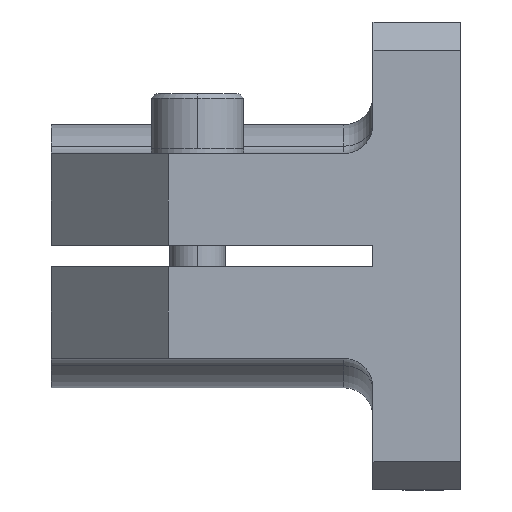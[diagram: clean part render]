
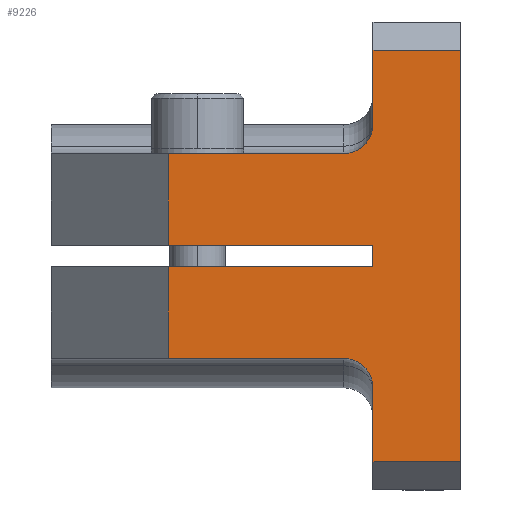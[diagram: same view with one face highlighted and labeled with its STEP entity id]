
A CAD part, left-side view. The second image highlights one B-rep face of the part: STEP entity #9226.
In plain terms, the highlighted planar face has unit normal (-1, 0, 0).
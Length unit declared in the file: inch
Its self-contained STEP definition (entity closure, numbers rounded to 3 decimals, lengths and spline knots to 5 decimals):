
#1488 = EDGE_LOOP ( 'NONE', ( #9473, #9474, #9475, #9476, #9477, #9478, #9479, #9480, #9481, #9482, #9483, #9484, #9485, #9486 ) ) ;
#2256 = CARTESIAN_POINT ( 'NONE',  ( -1., 0.5, -0.563 ) ) ;
#2257 = DIRECTION ( 'NONE',  ( 1., 0., 0. ) ) ;
#2259 = DIRECTION ( 'NONE',  ( 0., 0., -1. ) ) ;
#2260 = CARTESIAN_POINT ( 'NONE',  ( -1., 1.75, -0.438 ) ) ;
#2261 = DIRECTION ( 'NONE',  ( 0., -1., 0. ) ) ;
#2262 = CARTESIAN_POINT ( 'NONE',  ( -1., 0.375, 1. ) ) ;
#2263 = DIRECTION ( 'NONE',  ( 0., 0., -1. ) ) ;
#2264 = CARTESIAN_POINT ( 'NONE',  ( -1., 0.375, 0.045 ) ) ;
#2265 = DIRECTION ( 'NONE',  ( 0., -1., 0. ) ) ;
#2267 = CARTESIAN_POINT ( 'NONE',  ( -1., 1.25, -0.438 ) ) ;
#2269 = DIRECTION ( 'NONE',  ( 0., 0., -1. ) ) ;
#2271 = CARTESIAN_POINT ( 'NONE',  ( -1., 0.5, 0.563 ) ) ;
#2273 = DIRECTION ( 'NONE',  ( 1., 0., 0. ) ) ;
#2275 = DIRECTION ( 'NONE',  ( 0., 0., -1. ) ) ;
#2277 = CARTESIAN_POINT ( 'NONE',  ( -1., 0.375, 0.88 ) ) ;
#2278 = DIRECTION ( 'NONE',  ( 0., 1., 0. ) ) ;
#2279 = CARTESIAN_POINT ( 'NONE',  ( -1., 0., 1. ) ) ;
#2280 = DIRECTION ( 'NONE',  ( 0., 0., 1. ) ) ;
#2282 = CARTESIAN_POINT ( 'NONE',  ( -1., 0.375, -0.88 ) ) ;
#2283 = DIRECTION ( 'NONE',  ( 0., -1., 0. ) ) ;
#2333 = CARTESIAN_POINT ( 'NONE',  ( -1., 0.375, 1. ) ) ;
#2334 = DIRECTION ( 'NONE',  ( 0., 0., 1. ) ) ;
#2351 = CARTESIAN_POINT ( 'NONE',  ( -1., 0.375, 1. ) ) ;
#2353 = DIRECTION ( 'NONE',  ( 0., 0., 1. ) ) ;
#2385 = CARTESIAN_POINT ( 'NONE',  ( -1., 1.25, -0.438 ) ) ;
#2386 = DIRECTION ( 'NONE',  ( 0., 0., -1. ) ) ;
#2449 = CARTESIAN_POINT ( 'NONE',  ( -1., 0.375, -0.045 ) ) ;
#2450 = DIRECTION ( 'NONE',  ( 0., 1., 0. ) ) ;
#2487 = CARTESIAN_POINT ( 'NONE',  ( -1., 1.75, 0.438 ) ) ;
#2489 = DIRECTION ( 'NONE',  ( 0., -1., 0. ) ) ;
#2960 = FACE_OUTER_BOUND ( 'NONE', #1488, .T. ) ;
#4882 = AXIS2_PLACEMENT_3D ( 'NONE', #12418, #12419, #12420 ) ;
#5020 = AXIS2_PLACEMENT_3D ( 'NONE', #2256, #2257, #2259 ) ;
#5023 = AXIS2_PLACEMENT_3D ( 'NONE', #2271, #2273, #2275 ) ;
#7090 = LINE ( 'NONE', #2260, #7093 ) ;
#7091 = CIRCLE ( 'NONE', #5020, 0.125 ) ;
#7093 = VECTOR ( 'NONE', #2261, 39.37008 ) ;
#7094 = LINE ( 'NONE', #2262, #7095 ) ;
#7095 = VECTOR ( 'NONE', #2263, 39.37008 ) ;
#7096 = LINE ( 'NONE', #2264, #7097 ) ;
#7097 = VECTOR ( 'NONE', #2265, 39.37008 ) ;
#7098 = LINE ( 'NONE', #2267, #7099 ) ;
#7099 = VECTOR ( 'NONE', #2269, 39.37008 ) ;
#7100 = LINE ( 'NONE', #2277, #7104 ) ;
#7102 = CIRCLE ( 'NONE', #5023, 0.125 ) ;
#7104 = VECTOR ( 'NONE', #2278, 39.37008 ) ;
#7106 = LINE ( 'NONE', #2279, #7108 ) ;
#7108 = VECTOR ( 'NONE', #2280, 39.37008 ) ;
#7110 = LINE ( 'NONE', #2282, #7112 ) ;
#7112 = VECTOR ( 'NONE', #2283, 39.37008 ) ;
#7146 = LINE ( 'NONE', #2333, #7147 ) ;
#7147 = VECTOR ( 'NONE', #2334, 39.37008 ) ;
#7160 = LINE ( 'NONE', #2351, #7161 ) ;
#7161 = VECTOR ( 'NONE', #2353, 39.37008 ) ;
#7181 = LINE ( 'NONE', #2385, #12836 ) ;
#7242 = CARTESIAN_POINT ( 'NONE',  ( -1., 1.25, 0.438 ) ) ;
#7244 = CARTESIAN_POINT ( 'NONE',  ( -1., 0.5, 0.438 ) ) ;
#7250 = CARTESIAN_POINT ( 'NONE',  ( -1., 0.375, -0.045 ) ) ;
#7254 = CARTESIAN_POINT ( 'NONE',  ( -1., 1.25, -0.045 ) ) ;
#7268 = CARTESIAN_POINT ( 'NONE',  ( -1., 1.25, -0.438 ) ) ;
#7279 = CARTESIAN_POINT ( 'NONE',  ( -1., 0.375, 0.563 ) ) ;
#7280 = CARTESIAN_POINT ( 'NONE',  ( -1., 0.375, 0.88 ) ) ;
#7281 = CARTESIAN_POINT ( 'NONE',  ( -1., 0.375, -0.88 ) ) ;
#7282 = CARTESIAN_POINT ( 'NONE',  ( -1., 0.375, -0.563 ) ) ;
#7292 = CARTESIAN_POINT ( 'NONE',  ( -1., 0., -0.88 ) ) ;
#7293 = CARTESIAN_POINT ( 'NONE',  ( -1., 0., 0.88 ) ) ;
#7294 = CARTESIAN_POINT ( 'NONE',  ( -1., 1.25, 0.045 ) ) ;
#7295 = CARTESIAN_POINT ( 'NONE',  ( -1., 0.375, 0.045 ) ) ;
#7297 = CARTESIAN_POINT ( 'NONE',  ( -1., 0.5, -0.438 ) ) ;
#9226 = ADVANCED_FACE ( 'NONE', ( #2960 ), #12417, .F. ) ;
#9473 = ORIENTED_EDGE ( 'NONE', *, *, #11908, .F. ) ;
#9474 = ORIENTED_EDGE ( 'NONE', *, *, #11892, .T. ) ;
#9475 = ORIENTED_EDGE ( 'NONE', *, *, #11891, .T. ) ;
#9476 = ORIENTED_EDGE ( 'NONE', *, *, #11890, .T. ) ;
#9477 = ORIENTED_EDGE ( 'NONE', *, *, #11913, .F. ) ;
#9478 = ORIENTED_EDGE ( 'NONE', *, *, #11889, .T. ) ;
#9479 = ORIENTED_EDGE ( 'NONE', *, *, #11954, .F. ) ;
#9480 = ORIENTED_EDGE ( 'NONE', *, *, #11888, .T. ) ;
#9481 = ORIENTED_EDGE ( 'NONE', *, *, #11887, .T. ) ;
#9482 = ORIENTED_EDGE ( 'NONE', *, *, #11886, .T. ) ;
#9483 = ORIENTED_EDGE ( 'NONE', *, *, #11942, .T. ) ;
#9484 = ORIENTED_EDGE ( 'NONE', *, *, #11923, .T. ) ;
#9485 = ORIENTED_EDGE ( 'NONE', *, *, #11885, .T. ) ;
#9486 = ORIENTED_EDGE ( 'NONE', *, *, #11884, .T. ) ;
#11641 = VERTEX_POINT ( 'NONE', #7242 ) ;
#11642 = VERTEX_POINT ( 'NONE', #7244 ) ;
#11647 = VERTEX_POINT ( 'NONE', #7250 ) ;
#11650 = VERTEX_POINT ( 'NONE', #7254 ) ;
#11662 = VERTEX_POINT ( 'NONE', #7268 ) ;
#11669 = VERTEX_POINT ( 'NONE', #7279 ) ;
#11670 = VERTEX_POINT ( 'NONE', #7280 ) ;
#11671 = VERTEX_POINT ( 'NONE', #7281 ) ;
#11672 = VERTEX_POINT ( 'NONE', #7282 ) ;
#11681 = VERTEX_POINT ( 'NONE', #7292 ) ;
#11682 = VERTEX_POINT ( 'NONE', #7293 ) ;
#11683 = VERTEX_POINT ( 'NONE', #7294 ) ;
#11684 = VERTEX_POINT ( 'NONE', #7295 ) ;
#11685 = VERTEX_POINT ( 'NONE', #7297 ) ;
#11884 = EDGE_CURVE ( 'NONE', #11685, #11672, #7091, .T. ) ;
#11885 = EDGE_CURVE ( 'NONE', #11662, #11685, #7090, .T. ) ;
#11886 = EDGE_CURVE ( 'NONE', #11684, #11647, #7094, .T. ) ;
#11887 = EDGE_CURVE ( 'NONE', #11683, #11684, #7096, .T. ) ;
#11888 = EDGE_CURVE ( 'NONE', #11641, #11683, #7098, .T. ) ;
#11889 = EDGE_CURVE ( 'NONE', #11669, #11642, #7102, .T. ) ;
#11890 = EDGE_CURVE ( 'NONE', #11682, #11670, #7100, .T. ) ;
#11891 = EDGE_CURVE ( 'NONE', #11681, #11682, #7106, .T. ) ;
#11892 = EDGE_CURVE ( 'NONE', #11671, #11681, #7110, .T. ) ;
#11908 = EDGE_CURVE ( 'NONE', #11671, #11672, #7146, .T. ) ;
#11913 = EDGE_CURVE ( 'NONE', #11669, #11670, #7160, .T. ) ;
#11923 = EDGE_CURVE ( 'NONE', #11650, #11662, #7181, .T. ) ;
#11942 = EDGE_CURVE ( 'NONE', #11647, #11650, #12866, .T. ) ;
#11954 = EDGE_CURVE ( 'NONE', #11641, #11642, #12889, .T. ) ;
#12417 = PLANE ( 'NONE',  #4882 ) ;
#12418 = CARTESIAN_POINT ( 'NONE',  ( -1., 0.375, 1. ) ) ;
#12419 = DIRECTION ( 'NONE',  ( 1., 0., 0. ) ) ;
#12420 = DIRECTION ( 'NONE',  ( 0., 0., -1. ) ) ;
#12836 = VECTOR ( 'NONE', #2386, 39.37008 ) ;
#12866 = LINE ( 'NONE', #2449, #12868 ) ;
#12868 = VECTOR ( 'NONE', #2450, 39.37008 ) ;
#12889 = LINE ( 'NONE', #2487, #12890 ) ;
#12890 = VECTOR ( 'NONE', #2489, 39.37008 ) ;
